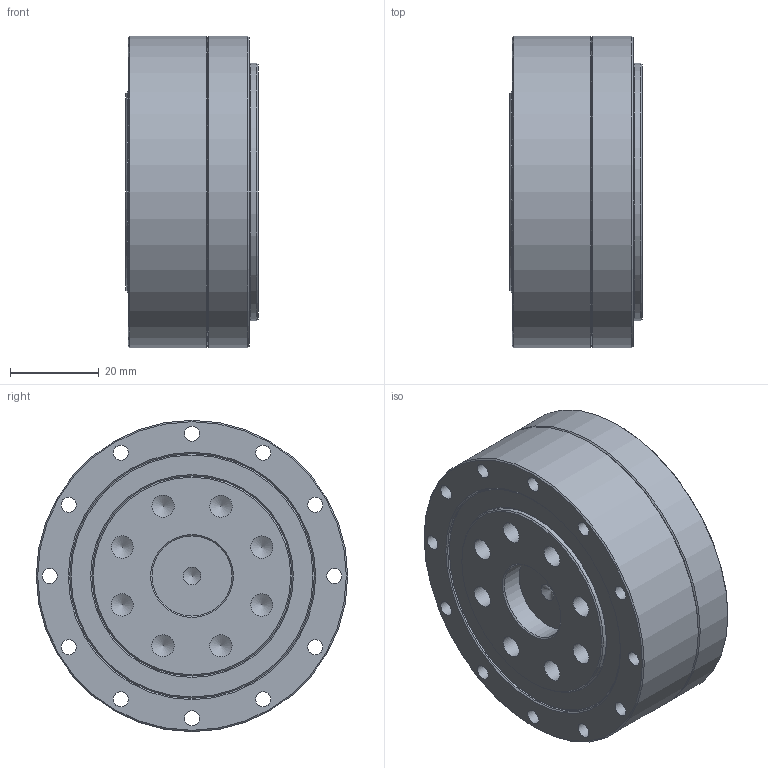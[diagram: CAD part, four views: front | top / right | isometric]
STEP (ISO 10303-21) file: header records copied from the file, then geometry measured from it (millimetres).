
FILE_DESCRIPTION (( 'STEP AP203' ), '1' );
FILE_NAME ('FCD-20-XXX-AJ.STEP', '2025-03-18T02:34:29', ( '微软用户' ), ( '微软中国' ), 'SwSTEP 2.0', 'SolidWorks 2016', '' );
FILE_SCHEMA (( 'CONFIG_CONTROL_DESIGN' ));
Length unit declared in the file: millimetre
Products named in the file (1): FCD-20-XXX-AJ
Bounding box: 29.7 x 70 x 70 mm (x, y, z)
Volume: 82002.1 mm3; surface area: 57759.4 mm2
Topology: 47 solids, 47 shells, 527 faces, 1199 edges, 768 vertices
Faces by surface type: plane 218, cylinder 181, cone 67, torus 38, sphere 23
Full cylindrical faces by diameter (mm): 1.6 x4, 2 x4, 2.4 x4, 2.5 x4, 3.3 x9, 3.4 x24, 3.8 x4, 4 x9, 4.3 x4, 4.5 x9, 5 x8, 7 x9, 14.2 x1, 16 x2, 18 x1, 20 x1, 32 x1, 35.155 x1, 35.555 x2, 38.555 x1, 39.318 x2, 40 x1, 43 x1, 45 x5, 45.474 x2, 48 x1, 48.668 x2, 49.5 x2, 49.67 x1, 50.266 x1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
Entity records: 12989 total; most frequent: DIRECTION 2438, CARTESIAN_POINT 2066, ORIENTED_EDGE 1708, AXIS2_PLACEMENT_3D 1056, EDGE_LOOP 888, EDGE_CURVE 854, VERTEX_POINT 684, FACE_OUTER_BOUND 673
